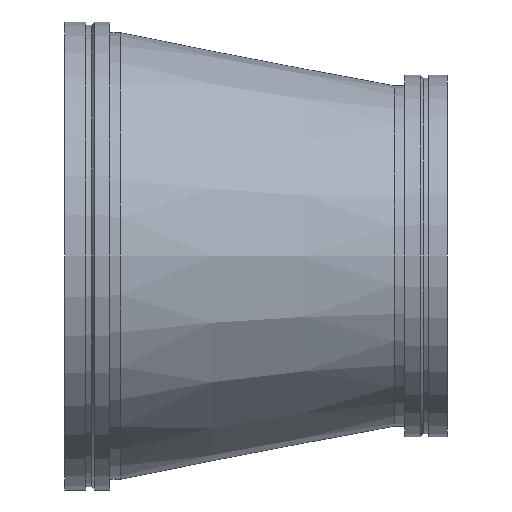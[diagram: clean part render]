
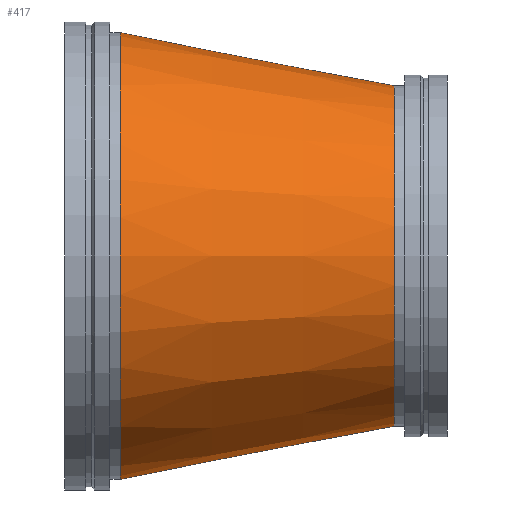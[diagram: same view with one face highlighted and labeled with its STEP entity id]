
A CAD part, front view. The second image highlights one B-rep face of the part: STEP entity #417.
In plain terms, the highlighted conical face has half-angle 10.989 degrees and reference radius 469.9 mm.
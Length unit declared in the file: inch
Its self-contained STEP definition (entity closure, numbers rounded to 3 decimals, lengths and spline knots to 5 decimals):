
#46=CONICAL_SURFACE('',#475,18.5,0.192);
#54=LINE('',#739,#68);
#68=VECTOR('',#587,18.5);
#101=FACE_OUTER_BOUND('',#124,.T.);
#124=EDGE_LOOP('',(#315,#316,#317,#318,#319,#320));
#155=CIRCLE('',#473,21.);
#156=CIRCLE('',#474,21.);
#157=CIRCLE('',#476,16.);
#158=CIRCLE('',#477,16.);
#195=VERTEX_POINT('',#729);
#196=VERTEX_POINT('',#730);
#197=VERTEX_POINT('',#735);
#198=VERTEX_POINT('',#736);
#239=EDGE_CURVE('',#195,#196,#155,.T.);
#240=EDGE_CURVE('',#196,#195,#156,.T.);
#242=EDGE_CURVE('',#197,#198,#157,.T.);
#243=EDGE_CURVE('',#198,#197,#158,.T.);
#244=EDGE_CURVE('',#198,#196,#54,.T.);
#315=ORIENTED_EDGE('',*,*,#242,.F.);
#316=ORIENTED_EDGE('',*,*,#243,.F.);
#317=ORIENTED_EDGE('',*,*,#244,.T.);
#318=ORIENTED_EDGE('',*,*,#240,.T.);
#319=ORIENTED_EDGE('',*,*,#239,.T.);
#320=ORIENTED_EDGE('',*,*,#244,.F.);
#417=ADVANCED_FACE('',(#101),#46,.T.);
#473=AXIS2_PLACEMENT_3D('',#731,#576,#577);
#474=AXIS2_PLACEMENT_3D('',#732,#578,#579);
#475=AXIS2_PLACEMENT_3D('',#734,#581,#582);
#476=AXIS2_PLACEMENT_3D('',#737,#583,#584);
#477=AXIS2_PLACEMENT_3D('',#738,#585,#586);
#576=DIRECTION('center_axis',(1.,0.,0.));
#577=DIRECTION('ref_axis',(0.,0.,-1.));
#578=DIRECTION('center_axis',(1.,0.,0.));
#579=DIRECTION('ref_axis',(0.,0.,-1.));
#581=DIRECTION('center_axis',(-1.,0.,0.));
#582=DIRECTION('ref_axis',(0.,1.,0.));
#583=DIRECTION('center_axis',(1.,0.,0.));
#584=DIRECTION('ref_axis',(0.,0.,-1.));
#585=DIRECTION('center_axis',(1.,0.,0.));
#586=DIRECTION('ref_axis',(0.,0.,-1.));
#587=DIRECTION('',(-0.982,-0.191,0.));
#729=CARTESIAN_POINT('',(5.25,21.,0.));
#730=CARTESIAN_POINT('',(5.25,-21.,0.));
#731=CARTESIAN_POINT('Origin',(5.25,0.,0.));
#732=CARTESIAN_POINT('Origin',(5.25,0.,0.));
#734=CARTESIAN_POINT('Origin',(18.125,0.,0.));
#735=CARTESIAN_POINT('',(31.,16.,0.));
#736=CARTESIAN_POINT('',(31.,-16.,0.));
#737=CARTESIAN_POINT('Origin',(31.,0.,0.));
#738=CARTESIAN_POINT('Origin',(31.,0.,0.));
#739=CARTESIAN_POINT('',(18.125,-18.5,0.));
